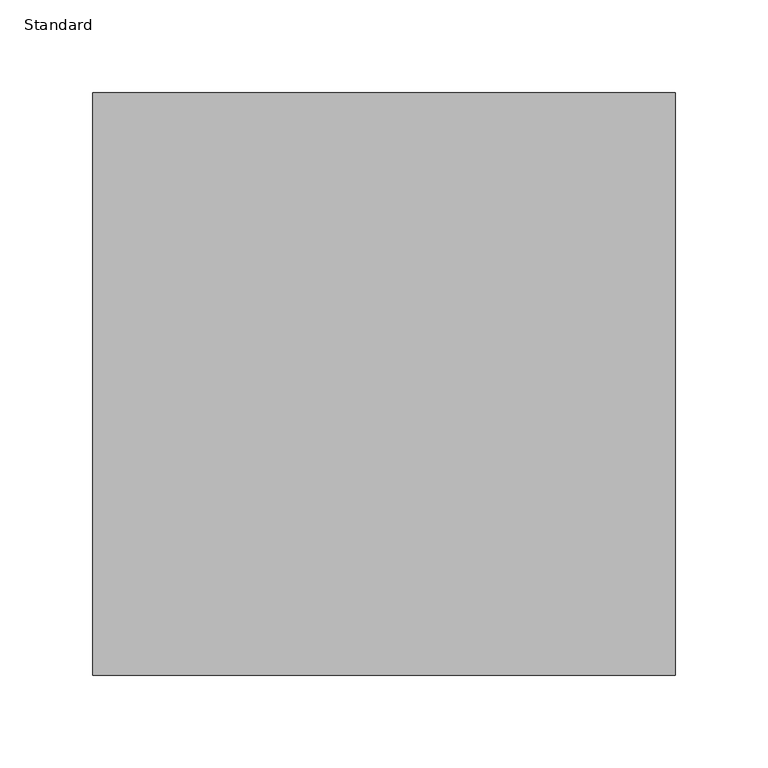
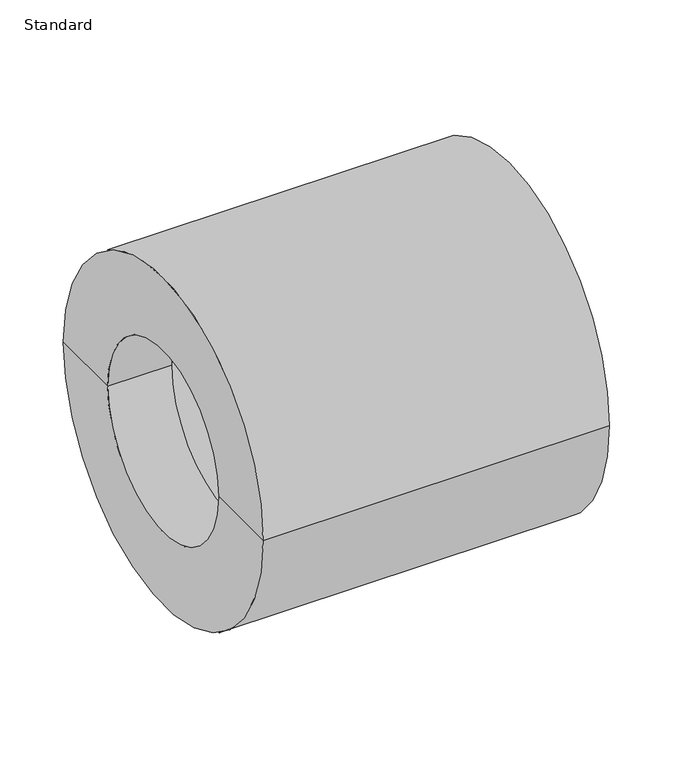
"""IFC4 building model written with IfcOpenShell, lengths in millimetres: pipe fitting geometry, Durapipe_PipeFitting_PVC_ReducingBush : Standard."""

from ifc_helpers import new_model, si_unit, frame, origin, place, context, project, spatial, polyline, circle_curve, source, transform, mapped, element, save
from ifc_brep_helpers import plane_surface, cylinder_surface, revolved_surface, advanced_brep


def standard_2dc408c3(model_context):
    return source(origin(), model_context, "Body", "AdvancedBrep", [
        advanced_brep(
        [(-58.0, -87.5, 0.0), (-58.0, 87.5, 0.0), (-58.0, 157.5, 0.0), (-58.0, -157.5, 0.0), (0.0, -87.5, 0.0), (0.0, 87.5, 0.0), (0.0, -100.0, 0.0), (0.0, 100.0, 0.0), (257.0, -100.0, 0.0), (257.0, 100.0, 0.0), (257.0, -157.5, 0.0), (257.0, 157.5, 0.0)],
        [
            (0, 1, circle_curve(frame((-58.0, 0.0, 0.0), z_axis=(1.0, 0.0, 0.0), x_axis=(0.0, 1.0, 0.0)), 87.5)),
            (1, 2),
            (2, 3, circle_curve(frame((-58.0, 0.0, 0.0), z_axis=(-1.0, 0.0, 0.0), x_axis=(0.0, 1.0, 0.0)), 157.5)),
            (3, 0),
            (1, 0, circle_curve(frame((-58.0, 0.0, 0.0), z_axis=(1.0, 0.0, 0.0), x_axis=(0.0, 1.0, 0.0)), 87.5)),
            (3, 2, circle_curve(frame((-58.0, 0.0, 0.0), z_axis=(-1.0, 0.0, 0.0), x_axis=(0.0, 1.0, 0.0)), 157.5)),
            (4, 5, circle_curve(frame((0.0, 0.0, 0.0), z_axis=(1.0, 0.0, 0.0), x_axis=(0.0, 1.0, 0.0)), 87.5)),
            (5, 1),
            (0, 4),
            (5, 4, circle_curve(frame((0.0, 0.0, 0.0), z_axis=(1.0, 0.0, 0.0), x_axis=(0.0, 1.0, 0.0)), 87.5)),
            (6, 7, circle_curve(frame((0.0, 0.0, 0.0), z_axis=(1.0, 0.0, 0.0), x_axis=(0.0, 1.0, 0.0)), 100.0)),
            (7, 5),
            (4, 6),
            (7, 6, circle_curve(frame((0.0, 0.0, 0.0), z_axis=(1.0, 0.0, 0.0), x_axis=(0.0, 1.0, 0.0)), 100.0)),
            (8, 9, circle_curve(frame((257.0, 0.0, 0.0), z_axis=(1.0, 0.0, 0.0), x_axis=(0.0, 1.0, 0.0)), 100.0)),
            (9, 7),
            (6, 8),
            (9, 8, circle_curve(frame((257.0, 0.0, 0.0), z_axis=(1.0, 0.0, 0.0), x_axis=(0.0, 1.0, 0.0)), 100.0)),
            (10, 11, circle_curve(frame((257.0, 0.0, 0.0), z_axis=(1.0, 0.0, 0.0), x_axis=(0.0, 1.0, 0.0)), 157.5)),
            (11, 9),
            (8, 10),
            (11, 10, circle_curve(frame((257.0, 0.0, 0.0), z_axis=(1.0, 0.0, 0.0), x_axis=(0.0, 1.0, 0.0)), 157.5)),
            (2, 11),
            (10, 3),
        ],
        [
            plane_surface(frame((-58.0, 0.0, 0.0), z_axis=(-1.0, 0.0, 0.0), x_axis=(0.0, 1.0, 0.0))),
            revolved_surface(polyline([(-58.0, 87.5, 0.0), (0.0, 87.5, 0.0)]), (2243.0, 0.0, 0.0), (-1.0, 0.0, 0.0)),
            plane_surface(frame((0.0, 0.0, 0.0), z_axis=(1.0, 0.0, 0.0), x_axis=(0.0, 1.0, 0.0))),
            revolved_surface(polyline([(0.0, 100.0, 0.0), (257.0, 100.0, 0.0)]), (2243.0, 0.0, 0.0), (-1.0, 0.0, 0.0)),
            plane_surface(frame((257.0, 0.0, 0.0), z_axis=(1.0, 0.0, 0.0), x_axis=(0.0, 1.0, 0.0))),
            cylinder_surface(frame((2243.0, 0.0, 0.0), z_axis=(-1.0, 0.0, 0.0), x_axis=(0.0, 1.0, 0.0)), 157.5),
        ],
        [
            (0, [[1, 2, 3, 4]]),
            (0, [[5, -4, 6, -2]]),
            (1, [[7, 8, -1, 9]]),
            (1, [[10, -9, -5, -8]]),
            (2, [[11, 12, -7, 13]]),
            (2, [[14, -13, -10, -12]]),
            (3, [[15, 16, -11, 17]]),
            (3, [[18, -17, -14, -16]]),
            (4, [[19, 20, -15, 21]]),
            (4, [[22, -21, -18, -20]]),
            (5, [[-3, 23, -19, 24]]),
            (5, [[-6, -24, -22, -23]]),
        ],
    ),
    ])


if __name__ == "__main__":
    model = new_model("IFC4")
    model_context = context("Model", 3, world=origin())
    ifc_project = project(units=[si_unit("LENGTHUNIT", "METRE", prefix="MILLI")], contexts=[model_context])
    site = spatial("IfcSite", under=ifc_project)
    building = spatial("IfcBuilding", under=site)
    placement = place(None, origin())
    standard_shape = standard_2dc408c3(model_context)
    element("IfcPipeFitting", 1, ObjectType="Durapipe_PipeFitting_PVC_ReducingBush : Standard", at=placement, inside=building, context=model_context, shape_type="MappedRepresentation", body=[
        mapped(standard_shape, transform((0.0, 0.0, 0.0), x_axis=(1.0, 0.0, 0.0), y_axis=(0.0, 1.0, 0.0), z_axis=(0.0, 0.0, 1.0))),
    ])
    save(model, "model.ifc")
